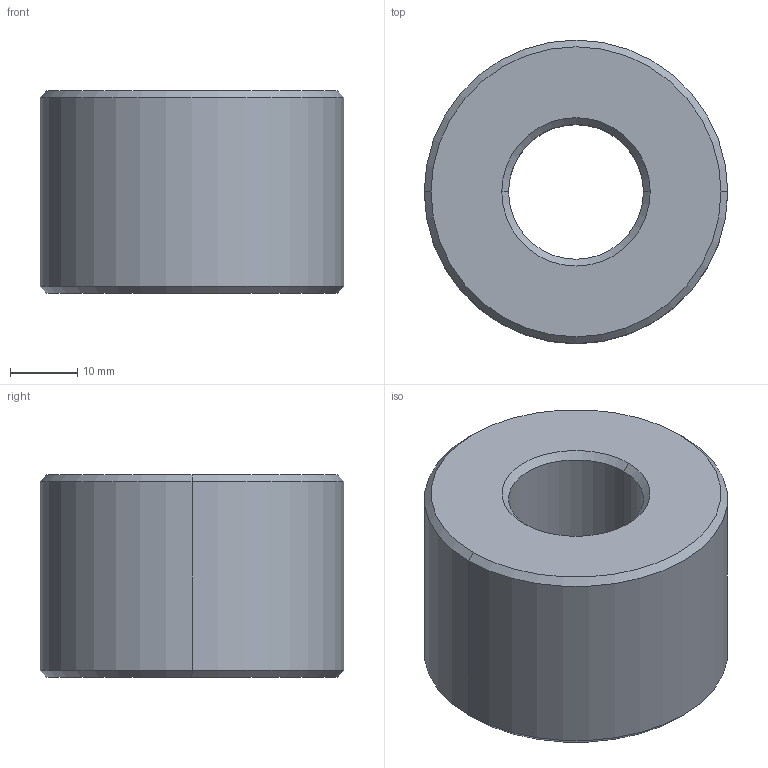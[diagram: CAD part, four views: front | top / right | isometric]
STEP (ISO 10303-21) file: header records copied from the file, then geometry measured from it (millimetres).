
FILE_DESCRIPTION (( 'STEP AP203' ), '1' );
FILE_NAME ('L1339.R20-08.step', '2024-10-24T14:09:45', ( '' ), ( '' ), 'SwSTEP 2.0', 'SolidWorks 2019', '' );
FILE_SCHEMA (( 'CONFIG_CONTROL_DESIGN' ));
Length unit declared in the file: millimetre
Products named in the file (1): L1339.R20-08
Bounding box: 45 x 45 x 30 mm (x, y, z)
Volume: 38084 mm3; surface area: 8439.4 mm2
Topology: 1 solids, 1 shells, 14 faces, 28 edges, 16 vertices
Faces by surface type: cone 8, cylinder 4, plane 2
Entity records: 445 total; most frequent: DIRECTION 74, CARTESIAN_POINT 59, ORIENTED_EDGE 56, AXIS2_PLACEMENT_3D 31, EDGE_CURVE 28, CIRCLE 16, VERTEX_POINT 16, EDGE_LOOP 16
